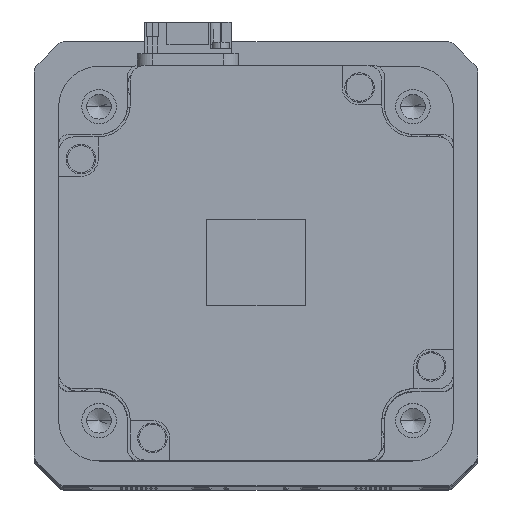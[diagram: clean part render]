
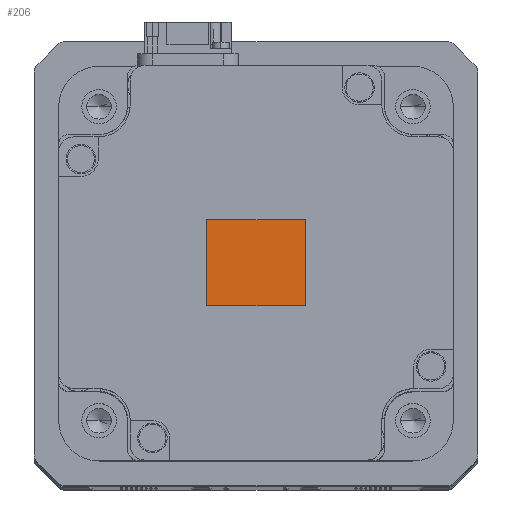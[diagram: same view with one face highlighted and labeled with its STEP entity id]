
A CAD part, top view. The second image highlights one B-rep face of the part: STEP entity #206.
In plain terms, the highlighted planar face has unit normal (0, 0, 1) as drawn and (0, 0, -1) by its records, which use the part's own axes.
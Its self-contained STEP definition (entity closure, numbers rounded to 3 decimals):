
#206 = ADVANCED_FACE ( 'NONE', ( #21983 ), #32071, .T. ) ;
#667 = CARTESIAN_POINT ( 'NONE',  ( 10., -8.75, -115.1 ) ) ;
#986 = CARTESIAN_POINT ( 'NONE',  ( -10., 8.75, -115.1 ) ) ;
#1324 = DIRECTION ( 'NONE',  ( -1., 0., 0. ) ) ;
#2243 = ORIENTED_EDGE ( 'NONE', *, *, #28850, .T. ) ;
#2662 = AXIS2_PLACEMENT_3D ( 'NONE', #667, #11144, #35656 ) ;
#8757 = CARTESIAN_POINT ( 'NONE',  ( -10., -8.75, -115.1 ) ) ;
#9124 = LINE ( 'NONE', #36626, #37067 ) ;
#9277 = CARTESIAN_POINT ( 'NONE',  ( 10., 8.75, -115.1 ) ) ;
#11144 = DIRECTION ( 'NONE',  ( 0., 0., -1. ) ) ;
#11374 = LINE ( 'NONE', #986, #27823 ) ;
#11435 = LINE ( 'NONE', #40249, #20737 ) ;
#15613 = DIRECTION ( 'NONE',  ( 0., -1., 0. ) ) ;
#15924 = CARTESIAN_POINT ( 'NONE',  ( -10., 8.75, -115.1 ) ) ;
#17085 = EDGE_CURVE ( 'NONE', #43054, #38663, #11374, .T. ) ;
#17511 = EDGE_CURVE ( 'NONE', #38663, #29695, #9124, .T. ) ;
#17569 = EDGE_LOOP ( 'NONE', ( #32276, #30698, #44903, #2243 ) ) ;
#20737 = VECTOR ( 'NONE', #15613, 1000. ) ;
#21983 = FACE_OUTER_BOUND ( 'NONE', #17569, .T. ) ;
#22196 = CARTESIAN_POINT ( 'NONE',  ( 10., -8.75, -115.1 ) ) ;
#22627 = LINE ( 'NONE', #22196, #31935 ) ;
#23480 = EDGE_CURVE ( 'NONE', #29695, #24931, #11435, .T. ) ;
#24931 = VERTEX_POINT ( 'NONE', #35363 ) ;
#27823 = VECTOR ( 'NONE', #28938, 1000. ) ;
#28850 = EDGE_CURVE ( 'NONE', #24931, #43054, #22627, .T. ) ;
#28938 = DIRECTION ( 'NONE',  ( 0., 1., 0. ) ) ;
#29695 = VERTEX_POINT ( 'NONE', #9277 ) ;
#30698 = ORIENTED_EDGE ( 'NONE', *, *, #17511, .T. ) ;
#31935 = VECTOR ( 'NONE', #1324, 1000. ) ;
#32071 = PLANE ( 'NONE',  #2662 ) ;
#32276 = ORIENTED_EDGE ( 'NONE', *, *, #17085, .T. ) ;
#35363 = CARTESIAN_POINT ( 'NONE',  ( 10., -8.75, -115.1 ) ) ;
#35656 = DIRECTION ( 'NONE',  ( -1., 0., 0. ) ) ;
#36626 = CARTESIAN_POINT ( 'NONE',  ( 10., 8.75, -115.1 ) ) ;
#37067 = VECTOR ( 'NONE', #40017, 1000. ) ;
#38663 = VERTEX_POINT ( 'NONE', #15924 ) ;
#40017 = DIRECTION ( 'NONE',  ( 1., 0., 0. ) ) ;
#40249 = CARTESIAN_POINT ( 'NONE',  ( 10., 8.75, -115.1 ) ) ;
#43054 = VERTEX_POINT ( 'NONE', #8757 ) ;
#44903 = ORIENTED_EDGE ( 'NONE', *, *, #23480, .T. ) ;
